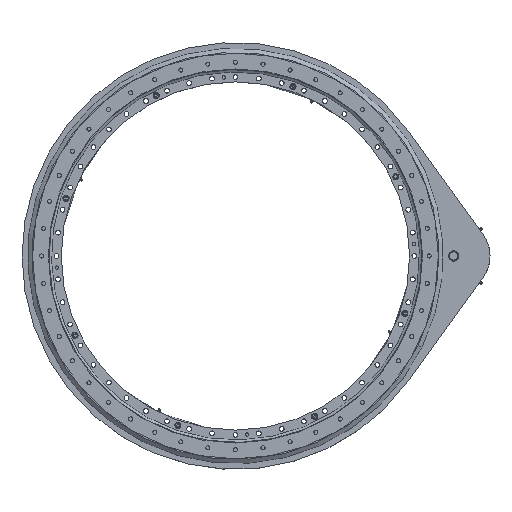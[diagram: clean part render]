
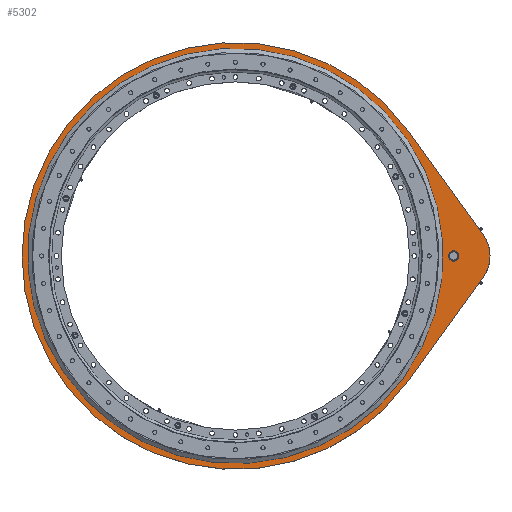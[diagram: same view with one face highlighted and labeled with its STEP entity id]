
A CAD part, top view. The second image highlights one B-rep face of the part: STEP entity #5302.
In plain terms, the highlighted planar face has unit normal (0, 0, 1).
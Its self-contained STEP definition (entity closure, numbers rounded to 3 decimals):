
#138 = CIRCLE ( 'NONE', #12395, 603. ) ;
#279 = EDGE_LOOP ( 'NONE', ( #14500, #16258 ) ) ;
#297 = CARTESIAN_POINT ( 'NONE',  ( 443.159, 389.026, 637. ) ) ;
#498 = DIRECTION ( 'NONE',  ( 1., 0., 0. ) ) ;
#1624 = VERTEX_POINT ( 'NONE', #24101 ) ;
#2035 = CIRCLE ( 'NONE', #19853, 13. ) ;
#2657 = ORIENTED_EDGE ( 'NONE', *, *, #15246, .T. ) ;
#2683 = DIRECTION ( 'NONE',  ( -0.584, 0.811, 0. ) ) ;
#3586 = ORIENTED_EDGE ( 'NONE', *, *, #24561, .T. ) ;
#3683 = CARTESIAN_POINT ( 'NONE',  ( 575.019, 23.74, 637. ) ) ;
#3824 = DIRECTION ( 'NONE',  ( -1., 0., 0. ) ) ;
#4104 = PLANE ( 'NONE',  #20852 ) ;
#4256 = EDGE_CURVE ( 'NONE', #15693, #4480, #6793, .T. ) ;
#4400 = CARTESIAN_POINT ( 'NONE',  ( 562.019, 23.74, 637. ) ) ;
#4480 = VERTEX_POINT ( 'NONE', #9054 ) ;
#4642 = DIRECTION ( 'NONE',  ( -1., 0., 0. ) ) ;
#5026 = CARTESIAN_POINT ( 'NONE',  ( -63.981, 23.74, 637. ) ) ;
#5302 = ADVANCED_FACE ( 'NONE', ( #18976, #16916, #25971 ), #4104, .T. ) ;
#5919 = ORIENTED_EDGE ( 'NONE', *, *, #4256, .F. ) ;
#6077 = DIRECTION ( 'NONE',  ( 1., 0., 0. ) ) ;
#6394 = CARTESIAN_POINT ( 'NONE',  ( -63.981, 23.74, 637. ) ) ;
#6717 = AXIS2_PLACEMENT_3D ( 'NONE', #6394, #27804, #6077 ) ;
#6779 = LINE ( 'NONE', #21473, #24839 ) ;
#6793 = CIRCLE ( 'NONE', #29733, 603. ) ;
#7306 = DIRECTION ( 'NONE',  ( 1., 0., 0. ) ) ;
#8176 = DIRECTION ( 'NONE',  ( 0., 0., 1. ) ) ;
#8655 = CARTESIAN_POINT ( 'NONE',  ( 661.436, 85.985, 637. ) ) ;
#8789 = VECTOR ( 'NONE', #2683, 1000. ) ;
#9054 = CARTESIAN_POINT ( 'NONE',  ( -666.981, 23.74, 637. ) ) ;
#9219 = EDGE_CURVE ( 'NONE', #12633, #13598, #2035, .T. ) ;
#9425 = CARTESIAN_POINT ( 'NONE',  ( -63.981, 23.74, 637. ) ) ;
#9795 = ORIENTED_EDGE ( 'NONE', *, *, #25572, .F. ) ;
#10503 = VERTEX_POINT ( 'NONE', #22003 ) ;
#11140 = CARTESIAN_POINT ( 'NONE',  ( 575.019, 23.74, 637. ) ) ;
#12395 = AXIS2_PLACEMENT_3D ( 'NONE', #31538, #17348, #21660 ) ;
#12633 = VERTEX_POINT ( 'NONE', #17872 ) ;
#13505 = DIRECTION ( 'NONE',  ( 1., 0., 0. ) ) ;
#13598 = VERTEX_POINT ( 'NONE', #4400 ) ;
#14051 = VERTEX_POINT ( 'NONE', #17942 ) ;
#14400 = AXIS2_PLACEMENT_3D ( 'NONE', #3683, #28290, #3824 ) ;
#14500 = ORIENTED_EDGE ( 'NONE', *, *, #24027, .T. ) ;
#15111 = AXIS2_PLACEMENT_3D ( 'NONE', #24905, #8176, #498 ) ;
#15246 = EDGE_CURVE ( 'NONE', #19182, #28143, #20351, .T. ) ;
#15693 = VERTEX_POINT ( 'NONE', #25181 ) ;
#16258 = ORIENTED_EDGE ( 'NONE', *, *, #9219, .T. ) ;
#16439 = DIRECTION ( 'NONE',  ( 0., 0., 1. ) ) ;
#16828 = ORIENTED_EDGE ( 'NONE', *, *, #27159, .T. ) ;
#16831 = DIRECTION ( 'NONE',  ( 0., 0., -1. ) ) ;
#16905 = DIRECTION ( 'NONE',  ( 0., 0., 1. ) ) ;
#16916 = FACE_OUTER_BOUND ( 'NONE', #27174, .T. ) ;
#17309 = AXIS2_PLACEMENT_3D ( 'NONE', #11140, #25746, #13505 ) ;
#17348 = DIRECTION ( 'NONE',  ( 0., 0., 1. ) ) ;
#17872 = CARTESIAN_POINT ( 'NONE',  ( 588.019, 23.74, 637. ) ) ;
#17942 = CARTESIAN_POINT ( 'NONE',  ( -688.981, 23.74, 637. ) ) ;
#18461 = ORIENTED_EDGE ( 'NONE', *, *, #19925, .T. ) ;
#18976 = FACE_BOUND ( 'NONE', #279, .T. ) ;
#19182 = VERTEX_POINT ( 'NONE', #25588 ) ;
#19201 = CARTESIAN_POINT ( 'NONE',  ( 575.019, 23.74, 637. ) ) ;
#19224 = DIRECTION ( 'NONE',  ( 0.584, 0.811, 0. ) ) ;
#19853 = AXIS2_PLACEMENT_3D ( 'NONE', #19201, #16831, #4642 ) ;
#19925 = EDGE_CURVE ( 'NONE', #10503, #19182, #6779, .T. ) ;
#20351 = CIRCLE ( 'NONE', #17309, 106.5 ) ;
#20852 = AXIS2_PLACEMENT_3D ( 'NONE', #9425, #16439, #26623 ) ;
#21473 = CARTESIAN_POINT ( 'NONE',  ( 443.159, -341.546, 637. ) ) ;
#21660 = DIRECTION ( 'NONE',  ( 1., 0., 0. ) ) ;
#22003 = CARTESIAN_POINT ( 'NONE',  ( 443.159, -341.546, 637. ) ) ;
#22037 = EDGE_LOOP ( 'NONE', ( #5919, #9795 ) ) ;
#23213 = CIRCLE ( 'NONE', #15111, 625. ) ;
#24000 = EDGE_CURVE ( 'NONE', #1624, #14051, #25528, .T. ) ;
#24027 = EDGE_CURVE ( 'NONE', #13598, #12633, #30657, .T. ) ;
#24101 = CARTESIAN_POINT ( 'NONE',  ( 443.159, 389.026, 637. ) ) ;
#24561 = EDGE_CURVE ( 'NONE', #28143, #1624, #27425, .T. ) ;
#24839 = VECTOR ( 'NONE', #19224, 1000. ) ;
#24905 = CARTESIAN_POINT ( 'NONE',  ( -63.981, 23.74, 637. ) ) ;
#25102 = ORIENTED_EDGE ( 'NONE', *, *, #24000, .T. ) ;
#25181 = CARTESIAN_POINT ( 'NONE',  ( 539.019, 23.74, 637. ) ) ;
#25528 = CIRCLE ( 'NONE', #6717, 625. ) ;
#25572 = EDGE_CURVE ( 'NONE', #4480, #15693, #138, .T. ) ;
#25588 = CARTESIAN_POINT ( 'NONE',  ( 661.436, -38.505, 637. ) ) ;
#25746 = DIRECTION ( 'NONE',  ( 0., 0., 1. ) ) ;
#25971 = FACE_BOUND ( 'NONE', #22037, .T. ) ;
#26623 = DIRECTION ( 'NONE',  ( 1., 0., 0. ) ) ;
#27159 = EDGE_CURVE ( 'NONE', #14051, #10503, #23213, .T. ) ;
#27174 = EDGE_LOOP ( 'NONE', ( #25102, #16828, #18461, #2657, #3586 ) ) ;
#27425 = LINE ( 'NONE', #297, #8789 ) ;
#27804 = DIRECTION ( 'NONE',  ( 0., 0., 1. ) ) ;
#28143 = VERTEX_POINT ( 'NONE', #8655 ) ;
#28290 = DIRECTION ( 'NONE',  ( 0., 0., -1. ) ) ;
#29733 = AXIS2_PLACEMENT_3D ( 'NONE', #5026, #16905, #7306 ) ;
#30657 = CIRCLE ( 'NONE', #14400, 13. ) ;
#31538 = CARTESIAN_POINT ( 'NONE',  ( -63.981, 23.74, 637. ) ) ;
